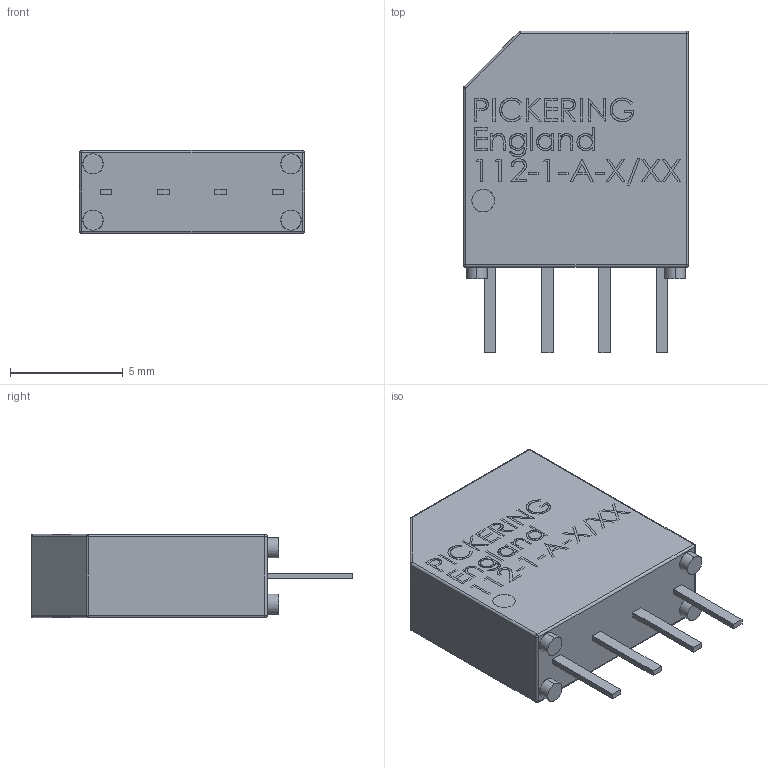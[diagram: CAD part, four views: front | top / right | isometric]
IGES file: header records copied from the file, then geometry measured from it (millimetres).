
Start section: SolidWorks IGES file using analytic representation for surfaces
Global section: file name: T:\Relays in Solidworks\Batch 1\112-1-A.IGS; native system: SolidWorks 2009; preprocessor: SolidWorks 2009; author: alex.leming; date: 100629.120128; units: millimetre
Bounding box: 10 x 14.3 x 3.7 mm (x, y, z)
Surface area: 382.2 mm2 (no closed solid volume)
Topology: 0 solids, 0 shells, 581 faces, 4964 edges, 4954 vertices
Faces by surface type: bspline 546, revolution 35
